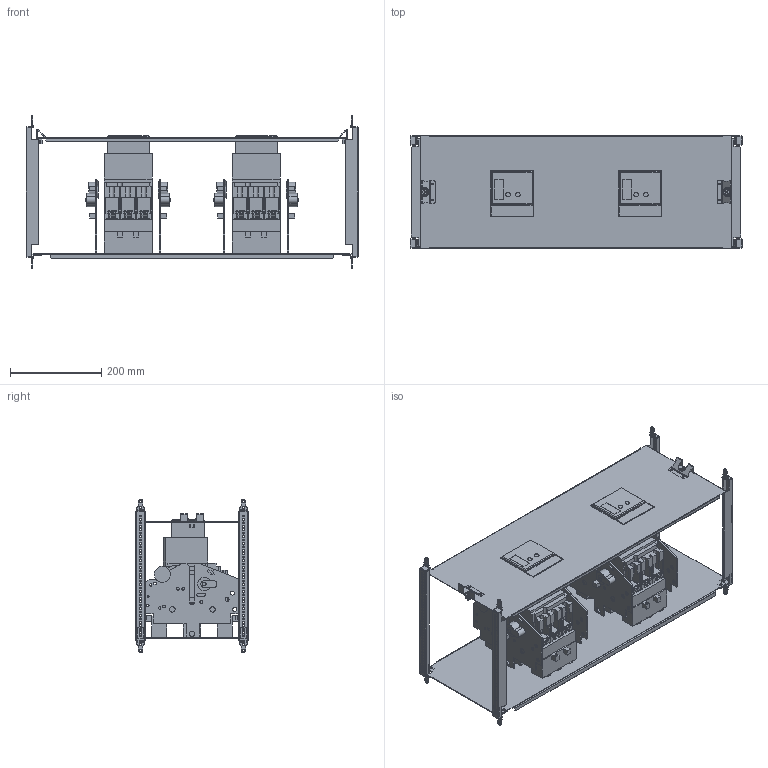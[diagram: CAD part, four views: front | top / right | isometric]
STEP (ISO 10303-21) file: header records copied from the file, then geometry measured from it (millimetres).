
FILE_DESCRIPTION(('CAx-IF Rec.Pracs.---Model Styling and Organization---1.2---2011-12-15','CAx-IF Rec.Pracs.---Geometric and Assembly Validation Properties---4.1---2014-06-16','CAx-IF Rec.Pracs.---PMI Polyline Presentation---2.0---2013-05-24'),'2;1');
FILE_NAME('R5PKIB7V81913 (W-MO).stp','2021-07-29T03:21:09+03:00',(''),(''),'STEP Interface 4.4 by CT CoreTechnologie','3D_Evolution4.4 by CT CoreTechnologie','');
FILE_SCHEMA(('AUTOMOTIVE_DESIGN { 1 0 10303 214 1 1 1 1 }'));
Length unit declared in the file: millimetre
Products named in the file (1): R5PKIB7V81913 (W-MO)
Bounding box: 726 x 248 x 335 mm (x, y, z)
Surface area: 1709970.1 mm2 (no closed solid volume)
Topology: 0 solids, 85 shells, 3238 faces, 9374 edges, 6338 vertices
Faces by surface type: plane 2242, cylinder 890, bspline 106
Entity records: 108412 total; most frequent: CARTESIAN_POINT 20343, ORIENTED_EDGE 18712, DIRECTION 17526, EDGE_CURVE 9362, VECTOR 7388, LINE 7388, VERTEX_POINT 6374, AXIS2_PLACEMENT_3D 5069
